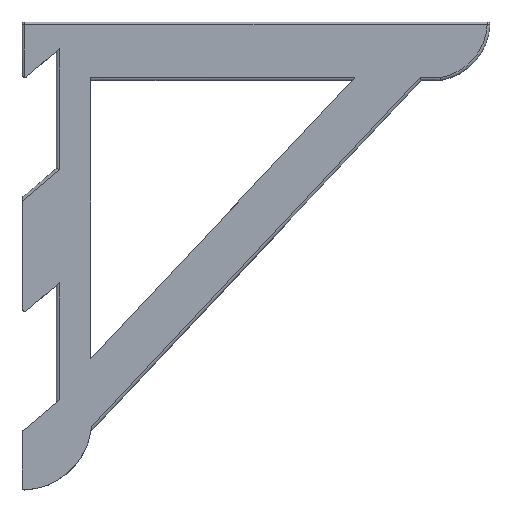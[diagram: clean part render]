
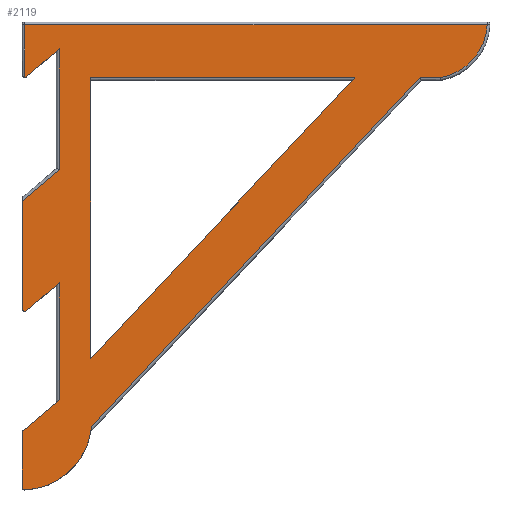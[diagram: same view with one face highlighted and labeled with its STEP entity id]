
A CAD part, top view. The second image highlights one B-rep face of the part: STEP entity #2119.
In plain terms, the highlighted planar face has unit normal (0, 0, 1).
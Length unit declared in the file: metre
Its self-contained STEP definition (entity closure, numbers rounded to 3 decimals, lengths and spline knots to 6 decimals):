
#103=CIRCLE('',#2252,0.03217);
#106=CIRCLE('',#2273,0.00127);
#107=CIRCLE('',#2274,0.00127);
#108=CIRCLE('',#2275,0.00127);
#109=CIRCLE('',#2276,0.026075);
#110=CIRCLE('',#2277,0.00127);
#373=ORIENTED_EDGE('',*,*,#989,.F.);
#374=ORIENTED_EDGE('',*,*,#1015,.T.);
#375=ORIENTED_EDGE('',*,*,#1016,.T.);
#376=ORIENTED_EDGE('',*,*,#934,.F.);
#377=ORIENTED_EDGE('',*,*,#1017,.T.);
#378=ORIENTED_EDGE('',*,*,#1000,.F.);
#379=ORIENTED_EDGE('',*,*,#1018,.T.);
#380=ORIENTED_EDGE('',*,*,#1006,.F.);
#381=ORIENTED_EDGE('',*,*,#1019,.T.);
#382=ORIENTED_EDGE('',*,*,#1008,.F.);
#383=ORIENTED_EDGE('',*,*,#1020,.T.);
#384=ORIENTED_EDGE('',*,*,#967,.T.);
#385=ORIENTED_EDGE('',*,*,#1021,.T.);
#386=ORIENTED_EDGE('',*,*,#1022,.T.);
#387=ORIENTED_EDGE('',*,*,#1023,.T.);
#388=ORIENTED_EDGE('',*,*,#1024,.T.);
#389=ORIENTED_EDGE('',*,*,#1025,.T.);
#390=ORIENTED_EDGE('',*,*,#1026,.T.);
#391=ORIENTED_EDGE('',*,*,#1027,.T.);
#392=ORIENTED_EDGE('',*,*,#1013,.F.);
#393=ORIENTED_EDGE('',*,*,#959,.F.);
#934=EDGE_CURVE('',#1260,#1261,#1451,.T.);
#959=EDGE_CURVE('',#1285,#1281,#1458,.T.);
#967=EDGE_CURVE('',#1288,#1292,#103,.T.);
#989=EDGE_CURVE('',#1311,#1307,#1482,.T.);
#1000=EDGE_CURVE('',#1320,#1316,#1492,.T.);
#1006=EDGE_CURVE('',#1324,#1325,#1498,.T.);
#1008=EDGE_CURVE('',#1326,#1327,#1499,.T.);
#1013=EDGE_CURVE('',#1281,#1330,#1504,.T.);
#1015=EDGE_CURVE('',#1311,#1331,#1505,.T.);
#1016=EDGE_CURVE('',#1331,#1261,#1506,.F.);
#1017=EDGE_CURVE('',#1260,#1316,#106,.T.);
#1018=EDGE_CURVE('',#1320,#1325,#1507,.F.);
#1019=EDGE_CURVE('',#1324,#1327,#107,.T.);
#1020=EDGE_CURVE('',#1326,#1288,#108,.T.);
#1021=EDGE_CURVE('',#1292,#1332,#1508,.F.);
#1022=EDGE_CURVE('',#1332,#1333,#1509,.T.);
#1023=EDGE_CURVE('',#1333,#1334,#109,.T.);
#1024=EDGE_CURVE('',#1334,#1335,#1510,.F.);
#1025=EDGE_CURVE('',#1335,#1336,#1511,.F.);
#1026=EDGE_CURVE('',#1336,#1307,#110,.T.);
#1027=EDGE_CURVE('',#1285,#1330,#1512,.T.);
#1260=VERTEX_POINT('',#2937);
#1261=VERTEX_POINT('',#2938);
#1281=VERTEX_POINT('',#3012);
#1285=VERTEX_POINT('',#3019);
#1288=VERTEX_POINT('',#3029);
#1292=VERTEX_POINT('',#3041);
#1307=VERTEX_POINT('',#3081);
#1311=VERTEX_POINT('',#3088);
#1316=VERTEX_POINT('',#3104);
#1320=VERTEX_POINT('',#3111);
#1324=VERTEX_POINT('',#3123);
#1325=VERTEX_POINT('',#3125);
#1326=VERTEX_POINT('',#3129);
#1327=VERTEX_POINT('',#3130);
#1330=VERTEX_POINT('',#3139);
#1331=VERTEX_POINT('',#3143);
#1332=VERTEX_POINT('',#3150);
#1333=VERTEX_POINT('',#3152);
#1334=VERTEX_POINT('',#3154);
#1335=VERTEX_POINT('',#3156);
#1336=VERTEX_POINT('',#3158);
#1451=LINE('',#2936,#1627);
#1458=LINE('',#3020,#1634);
#1482=LINE('',#3089,#1658);
#1492=LINE('',#3112,#1668);
#1498=LINE('',#3124,#1674);
#1499=LINE('',#3128,#1675);
#1504=LINE('',#3138,#1680);
#1505=LINE('',#3142,#1681);
#1506=LINE('',#3144,#1682);
#1507=LINE('',#3146,#1683);
#1508=LINE('',#3149,#1684);
#1509=LINE('',#3151,#1685);
#1510=LINE('',#3155,#1686);
#1511=LINE('',#3157,#1687);
#1512=LINE('',#3160,#1688);
#1627=VECTOR('',#2408,1.);
#1634=VECTOR('',#2421,1.);
#1658=VECTOR('',#2471,1.);
#1668=VECTOR('',#2489,1.);
#1674=VECTOR('',#2499,1.);
#1675=VECTOR('',#2504,1.);
#1680=VECTOR('',#2511,1.);
#1681=VECTOR('',#2516,1.);
#1682=VECTOR('',#2517,1.);
#1683=VECTOR('',#2520,1.);
#1684=VECTOR('',#2525,1.);
#1685=VECTOR('',#2526,1.);
#1686=VECTOR('',#2529,1.);
#1687=VECTOR('',#2530,1.);
#1688=VECTOR('',#2533,1.);
#1806=EDGE_LOOP('',(#373,#374,#375,#376,#377,#378,#379,#380,#381,#382,#383,
#384,#385,#386,#387,#388,#389,#390));
#1807=EDGE_LOOP('',(#391,#392,#393));
#1944=FACE_BOUND('',#1806,.T.);
#1945=FACE_BOUND('',#1807,.T.);
#2076=PLANE('',#2272);
#2119=ADVANCED_FACE('',(#1944,#1945),#2076,.T.);
#2252=AXIS2_PLACEMENT_3D('',#3042,#2433,#2434);
#2272=AXIS2_PLACEMENT_3D('',#3141,#2514,#2515);
#2273=AXIS2_PLACEMENT_3D('',#3145,#2518,#2519);
#2274=AXIS2_PLACEMENT_3D('',#3147,#2521,#2522);
#2275=AXIS2_PLACEMENT_3D('',#3148,#2523,#2524);
#2276=AXIS2_PLACEMENT_3D('',#3153,#2527,#2528);
#2277=AXIS2_PLACEMENT_3D('',#3159,#2531,#2532);
#2408=DIRECTION('',(0.,1.,0.));
#2421=DIRECTION('',(0.,-1.,0.));
#2433=DIRECTION('',(0.,0.,1.));
#2434=DIRECTION('',(1.,0.,0.));
#2471=DIRECTION('',(-0.762,-0.648,0.));
#2489=DIRECTION('',(-0.762,-0.648,0.));
#2499=DIRECTION('',(0.762,0.648,0.));
#2504=DIRECTION('',(0.,1.,0.));
#2511=DIRECTION('',(0.685,0.728,0.));
#2514=DIRECTION('',(0.,0.,1.));
#2515=DIRECTION('',(1.,0.,0.));
#2516=DIRECTION('',(0.,-1.,0.));
#2517=DIRECTION('',(0.762,0.648,0.));
#2518=DIRECTION('',(0.,0.,1.));
#2519=DIRECTION('',(1.,0.,0.));
#2520=DIRECTION('',(0.,1.,0.));
#2521=DIRECTION('',(0.,0.,1.));
#2522=DIRECTION('',(1.,0.,0.));
#2523=DIRECTION('',(0.,0.,1.));
#2524=DIRECTION('',(1.,0.,0.));
#2525=DIRECTION('',(-0.685,-0.728,0.));
#2526=DIRECTION('',(1.,0.,0.));
#2527=DIRECTION('',(0.,0.,1.));
#2528=DIRECTION('',(1.,0.,0.));
#2529=DIRECTION('',(1.,0.,0.));
#2530=DIRECTION('',(0.,1.,0.));
#2531=DIRECTION('',(0.,0.,1.));
#2532=DIRECTION('',(1.,0.,0.));
#2533=DIRECTION('',(1.,0.,0.));
#2936=CARTESIAN_POINT('',(-0.015875,0.006747,0.03175));
#2937=CARTESIAN_POINT('',(-0.015875,-0.024241,0.03175));
#2938=CARTESIAN_POINT('',(-0.015875,0.025321,0.03175));
#3012=CARTESIAN_POINT('',(0.015875,-0.047228,0.03175));
#3019=CARTESIAN_POINT('',(0.015875,0.082233,0.03175));
#3020=CARTESIAN_POINT('',(0.015875,-0.023614,0.03175));
#3029=CARTESIAN_POINT('',(-0.014553,-0.107923,0.03175));
#3041=CARTESIAN_POINT('',(0.016152,-0.078816,0.03175));
#3042=CARTESIAN_POINT('',(-0.015875,-0.07578,0.03175));
#3081=CARTESIAN_POINT('',(-0.013782,0.082741,0.03175));
#3088=CARTESIAN_POINT('',(0.00127,0.095536,0.03175));
#3089=CARTESIAN_POINT('',(-0.007938,0.087709,0.03175));
#3104=CARTESIAN_POINT('',(-0.013782,-0.025209,0.03175));
#3111=CARTESIAN_POINT('',(0.00127,-0.012414,0.03175));
#3112=CARTESIAN_POINT('',(-0.007938,-0.020241,0.03175));
#3123=CARTESIAN_POINT('',(-0.015428,-0.080582,0.03175));
#3124=CARTESIAN_POINT('',(-0.007938,-0.074216,0.03175));
#3125=CARTESIAN_POINT('',(0.00127,-0.066389,0.03175));
#3128=CARTESIAN_POINT('',(-0.015875,-0.094456,0.03175));
#3129=CARTESIAN_POINT('',(-0.015875,-0.106654,0.03175));
#3130=CARTESIAN_POINT('',(-0.015875,-0.08155,0.03175));
#3138=CARTESIAN_POINT('',(0.0762,0.016867,0.03175));
#3139=CARTESIAN_POINT('',(0.13772,0.082233,0.03175));
#3141=CARTESIAN_POINT('',(0.092075,0.,0.03175));
#3142=CARTESIAN_POINT('',(0.00127,0.040481,0.03175));
#3143=CARTESIAN_POINT('',(0.00127,0.039894,0.03175));
#3144=CARTESIAN_POINT('',(0.034301,0.06797,0.03175));
#3145=CARTESIAN_POINT('',(-0.014605,-0.024241,0.03175));
#3146=CARTESIAN_POINT('',(0.00127,0.,0.03175));
#3147=CARTESIAN_POINT('',(-0.014605,-0.08155,0.03175));
#3148=CARTESIAN_POINT('',(-0.014605,-0.106654,0.03175));
#3149=CARTESIAN_POINT('',(0.09115,0.00087,0.03175));
#3150=CARTESIAN_POINT('',(0.167726,0.082233,0.03175));
#3151=CARTESIAN_POINT('',(0.177086,0.082233,0.03175));
#3152=CARTESIAN_POINT('',(0.176981,0.082233,0.03175));
#3153=CARTESIAN_POINT('',(0.17268,0.10795,0.03175));
#3154=CARTESIAN_POINT('',(0.198724,0.10668,0.03175));
#3155=CARTESIAN_POINT('',(0.092075,0.10668,0.03175));
#3156=CARTESIAN_POINT('',(-0.014605,0.10668,0.03175));
#3157=CARTESIAN_POINT('',(-0.014605,0.,0.03175));
#3158=CARTESIAN_POINT('',(-0.014605,0.082439,0.03175));
#3159=CARTESIAN_POINT('',(-0.014605,0.083709,0.03175));
#3160=CARTESIAN_POINT('',(0.136525,0.082233,0.03175));
